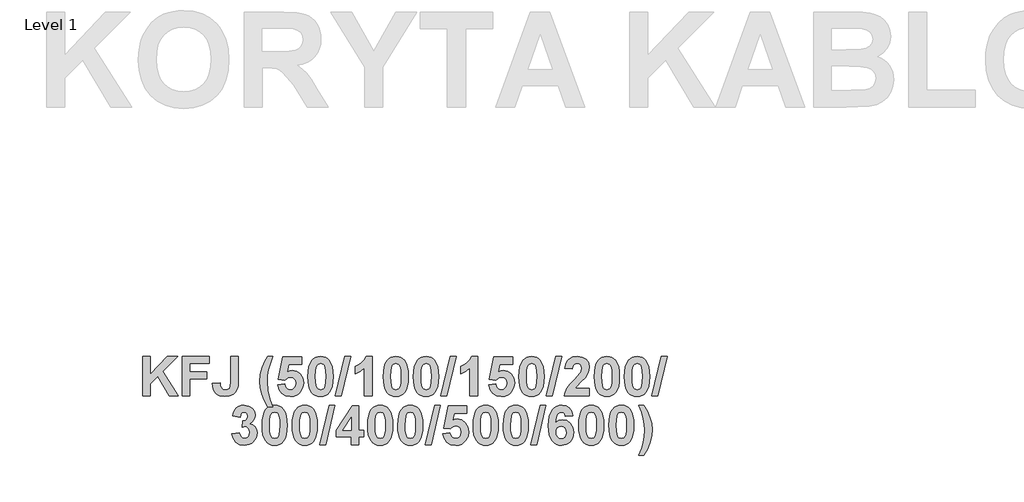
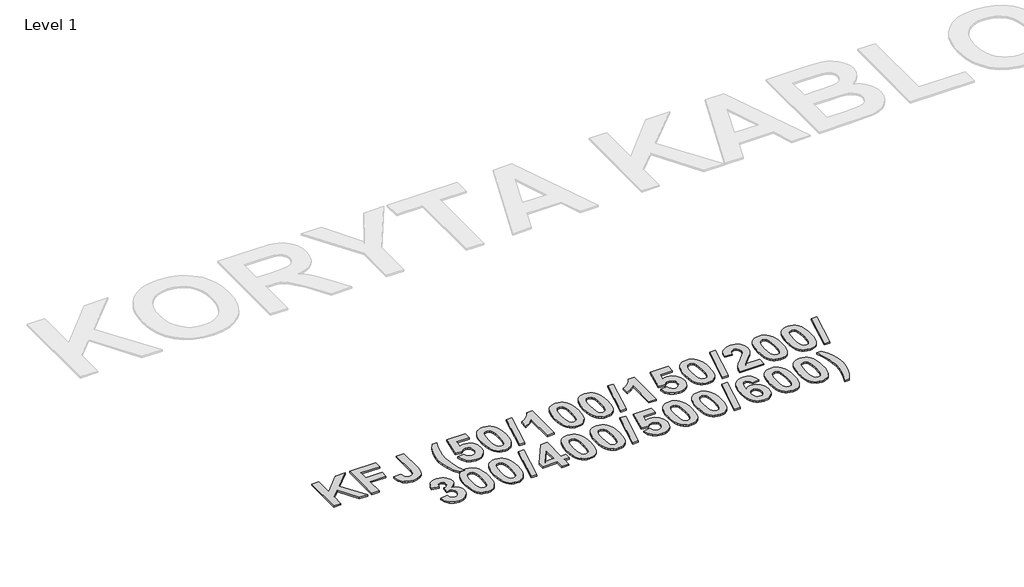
# One storey, part 11 of 42: 1 proxy.
"""IFC4 building model written with IfcOpenShell, lengths in millimetres."""

from ifc_helpers import new_model, si_unit, origin, origin_with_axes, place, context, project, spatial, polyline, outline, extrude, element, save

model = new_model("IFC4")

# Units and contexts
model_context = context("Model", 3, world=origin())
ifc_project = project(units=[si_unit("LENGTHUNIT", "METRE", prefix="MILLI")], contexts=[model_context])

# Site, building, storey
site = spatial("IfcSite", under=ifc_project)
building = spatial("IfcBuilding", under=site)
storey = spatial("IfcBuildingStorey", under=building, Name="Level 1", Elevation=0.0)

# Proxy
placement = place(None, origin())
element("IfcBuildingElementProxy", 1, Name="300mm Arial 2", ObjectType="300mm Arial 2", at=placement, inside=storey, context=model_context, shape_type="SweptSolid", body=[
    extrude(outline(polyline([(-29314.3228423, 4366.2760859), (-29314.3228423, 4621.3409359), (-29265.7390614, 4621.3409359), (-29265.7390614, 4505.0688143), (-29156.299034, 4621.3409359), (-29089.6228554, 4621.3409359), (-29186.157816, 4523.9203335), (-29085.574207, 4366.2760859), (-29142.381805, 4366.2760859), (-29217.7246216, 4491.9739671), (-29265.7390614, 4443.4534463), (-29265.7390614, 4366.2760859), (-29314.3228423, 4366.2760859)])), origin_with_axes(), (0.0, 0.0, 1.0), 10.0),
    extrude(outline(polyline([(-29059.2579923, 4366.2760859), (-29059.2579923, 4621.3409359), (-28885.1661106, 4621.3409359), (-28885.1661106, 4576.8058034), (-29010.6742114, 4576.8058034), (-29010.6742114, 4520.1247256), (-28901.3607042, 4520.1247256), (-28901.3607042, 4475.5895931), (-29010.6742114, 4475.5895931), (-29010.6742114, 4366.2760859), (-29059.2579923, 4366.2760859)])), origin_with_axes(), (0.0, 0.0, 1.0), 10.0),
    extrude(outline(polyline([(-28747.5120646, 4621.3409359), (-28698.9282836, 4621.3409359), (-28698.9282836, 4460.0908609), (-28700.3516366, 4432.0982527), (-28704.6216954, 4411.3805597), (-28715.3126576, 4391.358728), (-28732.2031127, 4375.7018455), (-28755.3879509, 4365.5960395), (-28784.9620624, 4362.2274375), (-28818.932753, 4367.6282712), (-28832.5969413, 4374.3793134), (-28844.0470251, 4383.8307724), (-28853.109039, 4395.8956656), (-28859.6090175, 4410.4870103), (-28864.9228685, 4447.2490542), (-28816.3390876, 4451.2977026), (-28814.1091679, 4432.6675939), (-28809.317213, 4420.4267584), (-28797.8987593, 4410.1786172), (-28781.7357957, 4406.7625701), (-28765.754705, 4409.2139001), (-28755.2614307, 4416.5678904), (-28749.4494061, 4431.6238017), (-28747.5120646, 4457.1808948), (-28747.5120646, 4621.3409359)])), origin_with_axes(), (0.0, 0.0, 1.0), 10.0),
    extrude(outline(polyline([(-28476.2526209, 4297.4490629), (-28508.6418082, 4297.4490629), (-28531.3126578, 4337.1210729), (-28547.8314596, 4378.327141), (-28557.9135431, 4419.6280993), (-28561.2742376, 4459.5847798), (-28557.162329, 4506.9824333), (-28544.8266034, 4551.7547913), (-28528.6320098, 4588.0344767), (-28508.6418082, 4621.3409359), (-28476.2526209, 4621.3409359), (-28493.8152149, 4574.1014328), (-28504.8778304, 4534.4847754), (-28510.7373001, 4497.6041188), (-28512.6904566, 4458.5726177), (-28508.0092069, 4401.92317), (-28495.1674002, 4346.8552256), (-28476.2526209, 4297.4490629)])), origin_with_axes(), (0.0, 0.0, 1.0), 10.0),
    extrude(outline(polyline([(-28443.8634336, 4438.0763351), (-28399.3283011, 4443.2004058), (-28395.1847625, 4428.1286795), (-28386.9293153, 4416.5678904), (-28375.8271622, 4409.2139001), (-28363.1435059, 4406.7625701), (-28348.9495139, 4409.364143), (-28337.1119618, 4417.1688617), (-28329.1174627, 4430.2083563), (-28326.4526297, 4448.5142568), (-28328.9276823, 4465.6735675), (-28336.3528402, 4477.9302179), (-28347.7475714, 4485.2842082), (-28362.1313438, 4487.7355383), (-28380.9512329, 4482.6747278), (-28397.6835377, 4467.4922962), (-28439.8147852, 4473.7550493), (-28411.4742463, 4617.2922875), (-28290.0147939, 4617.2922875), (-28290.0147939, 4568.7085066), (-28372.1897047, 4568.7085066), (-28381.9950251, 4522.3388302), (-28366.5121079, 4529.7877107), (-28350.68126, 4532.2706708), (-28322.5621316, 4526.5219064), (-28299.0609927, 4509.2756131), (-28283.1668847, 4482.8566007), (-28277.8688487, 4449.589679), (-28282.2812429, 4420.6639839), (-28295.5184254, 4394.9961856), (-28308.7358391, 4380.6598583), (-28324.2859701, 4370.4196245), (-28342.1688186, 4364.2754843), (-28362.3843843, 4362.2274375), (-28393.3897562, 4367.3673232), (-28418.0849301, 4382.7869802), (-28435.2995933, 4406.8890903), (-28443.8634336, 4438.0763351)])), origin_with_axes(), (0.0, 0.0, 1.0), 10.0),
    extrude(outline(polyline([(-28168.5553416, 4621.3409359), (-28151.4237072, 4619.6961725), (-28136.2768595, 4614.7618823), (-28123.1147984, 4606.5380652), (-28111.9375239, 4595.0247212), (-28101.2821455, 4576.8967398), (-28093.671161, 4553.6367802), (-28089.1045702, 4525.2448425), (-28087.5823733, 4491.7209266), (-28089.1124777, 4458.2286407), (-28093.702791, 4429.8050729), (-28101.3533132, 4406.4502232), (-28112.0640442, 4388.1640914), (-28123.185966, 4376.8168053), (-28136.3084896, 4368.711601), (-28151.4316147, 4363.8484784), (-28168.5553416, 4362.2274375), (-28185.8629182, 4364.0066287), (-28201.4110723, 4369.3442023), (-28215.1998041, 4378.2401583), (-28227.2291135, 4390.6944967), (-28236.9850119, 4407.7154258), (-28243.9535107, 4430.311154), (-28248.13461, 4458.4816813), (-28249.5283098, 4492.2270076), (-28247.9982054, 4525.5532356), (-28243.4078921, 4553.8581907), (-28235.7573699, 4577.1418728), (-28225.0466389, 4595.404282), (-28213.9247171, 4606.7515681), (-28200.8021936, 4614.8567724), (-28185.6790684, 4619.7198951), (-28168.5553416, 4621.3409359)]), holes=[polyline([(-28168.5553416, 4576.8058034), (-28184.7499352, 4571.4603223), (-28191.0759484, 4563.9877192), (-28195.7571981, 4552.2608724), (-28199.6476962, 4528.1113172), (-28200.9445289, 4491.7209266), (-28199.7900315, 4455.8128945), (-28196.3265393, 4433.2369351), (-28191.0996709, 4419.9839375), (-28184.655045, 4412.044791), (-28168.5553416, 4406.7625701), (-28152.3607479, 4412.1080512), (-28146.0347348, 4419.5806542), (-28141.353485, 4431.3075011), (-28137.462987, 4455.330536), (-28136.1661543, 4491.7209266), (-28137.3206517, 4527.5894211), (-28140.7841439, 4550.173288), (-28146.0110122, 4563.4658232), (-28152.4556381, 4571.4603223), (-28168.5553416, 4576.8058034)])]), origin_with_axes(), (0.0, 0.0, 1.0), 10.0),
    extrude(outline(polyline([(-28072.2734215, 4366.2760859), (-28011.5436953, 4621.3409359), (-27974.2202178, 4621.3409359), (-28034.9499439, 4366.2760859), (-28072.2734215, 4366.2760859)])), origin_with_axes(), (0.0, 0.0, 1.0), 10.0),
    extrude(outline(polyline([(-27836.5661717, 4366.2760859), (-27885.1499527, 4366.2760859), (-27885.1499527, 4548.5917848), (-27913.205821, 4524.7110851), (-27945.8796789, 4507.9787804), (-27945.8796789, 4556.5625613), (-27926.4113734, 4565.6482977), (-27905.3299346, 4580.3800008), (-27886.8737913, 4599.3975778), (-27875.2813722, 4621.3409359), (-27836.5661717, 4621.3409359), (-27836.5661717, 4366.2760859)])), origin_with_axes(), (0.0, 0.0, 1.0), 10.0),
    extrude(outline(polyline([(-27682.7175321, 4621.3409359), (-27665.5858977, 4619.6961725), (-27650.43905, 4614.7618823), (-27637.2769889, 4606.5380652), (-27626.0997144, 4595.0247212), (-27615.444336, 4576.8967398), (-27607.8333515, 4553.6367802), (-27603.2667607, 4525.2448425), (-27601.7445638, 4491.7209266), (-27603.2746682, 4458.2286407), (-27607.8649815, 4429.8050729), (-27615.5155037, 4406.4502232), (-27626.2262347, 4388.1640914), (-27637.3481565, 4376.8168053), (-27650.4706801, 4368.711601), (-27665.5938052, 4363.8484784), (-27682.7175321, 4362.2274375), (-27700.0251086, 4364.0066287), (-27715.5732628, 4369.3442023), (-27729.3619946, 4378.2401583), (-27741.391304, 4390.6944967), (-27751.1472024, 4407.7154258), (-27758.1157012, 4430.311154), (-27762.2968005, 4458.4816813), (-27763.6905003, 4492.2270076), (-27762.1603959, 4525.5532356), (-27757.5700826, 4553.8581907), (-27749.9195604, 4577.1418728), (-27739.2088294, 4595.404282), (-27728.0869076, 4606.7515681), (-27714.9643841, 4614.8567724), (-27699.8412589, 4619.7198951), (-27682.7175321, 4621.3409359)]), holes=[polyline([(-27682.7175321, 4576.8058034), (-27698.9121257, 4571.4603223), (-27705.2381389, 4563.9877192), (-27709.9193886, 4552.2608724), (-27713.8098867, 4528.1113172), (-27715.1067194, 4491.7209266), (-27713.952222, 4455.8128945), (-27710.4887298, 4433.2369351), (-27705.2618614, 4419.9839375), (-27698.8172355, 4412.044791), (-27682.7175321, 4406.7625701), (-27666.5229384, 4412.1080512), (-27660.1969253, 4419.5806542), (-27655.5156755, 4431.3075011), (-27651.6251775, 4455.330536), (-27650.3283448, 4491.7209266), (-27651.4828422, 4527.5894211), (-27654.9463344, 4550.173288), (-27660.1732027, 4563.4658232), (-27666.6178286, 4571.4603223), (-27682.7175321, 4576.8058034)])]), origin_with_axes(), (0.0, 0.0, 1.0), 10.0),
    extrude(outline(polyline([(-27488.3824083, 4621.3409359), (-27471.2507739, 4619.6961725), (-27456.1039262, 4614.7618823), (-27442.9418651, 4606.5380652), (-27431.7645906, 4595.0247212), (-27421.1092122, 4576.8967398), (-27413.4982277, 4553.6367802), (-27408.9316369, 4525.2448425), (-27407.40944, 4491.7209266), (-27408.9395444, 4458.2286407), (-27413.5298577, 4429.8050729), (-27421.1803799, 4406.4502232), (-27431.8911109, 4388.1640914), (-27443.0130327, 4376.8168053), (-27456.1355563, 4368.711601), (-27471.2586814, 4363.8484784), (-27488.3824083, 4362.2274375), (-27505.6899848, 4364.0066287), (-27521.238139, 4369.3442023), (-27535.0268708, 4378.2401583), (-27547.0561802, 4390.6944967), (-27556.8120786, 4407.7154258), (-27563.7805774, 4430.311154), (-27567.9616767, 4458.4816813), (-27569.3553765, 4492.2270076), (-27567.8252721, 4525.5532356), (-27563.2349588, 4553.8581907), (-27555.5844366, 4577.1418728), (-27544.8737056, 4595.404282), (-27533.7517838, 4606.7515681), (-27520.6292603, 4614.8567724), (-27505.5061351, 4619.7198951), (-27488.3824083, 4621.3409359)]), holes=[polyline([(-27488.3824083, 4576.8058034), (-27504.5770019, 4571.4603223), (-27510.9030151, 4563.9877192), (-27515.5842648, 4552.2608724), (-27519.4747629, 4528.1113172), (-27520.7715956, 4491.7209266), (-27519.6170982, 4455.8128945), (-27516.153606, 4433.2369351), (-27510.9267376, 4419.9839375), (-27504.4821117, 4412.044791), (-27488.3824083, 4406.7625701), (-27472.1878146, 4412.1080512), (-27465.8618015, 4419.5806542), (-27461.1805517, 4431.3075011), (-27457.2900537, 4455.330536), (-27455.993221, 4491.7209266), (-27457.1477184, 4527.5894211), (-27460.6112106, 4550.173288), (-27465.8380789, 4563.4658232), (-27472.2827048, 4571.4603223), (-27488.3824083, 4576.8058034)])]), origin_with_axes(), (0.0, 0.0, 1.0), 10.0),
    extrude(outline(polyline([(-27392.1004882, 4366.2760859), (-27331.370762, 4621.3409359), (-27294.0472845, 4621.3409359), (-27354.7770106, 4366.2760859), (-27392.1004882, 4366.2760859)])), origin_with_axes(), (0.0, 0.0, 1.0), 10.0),
    extrude(outline(polyline([(-27156.3932384, 4366.2760859), (-27204.9770194, 4366.2760859), (-27204.9770194, 4548.5917848), (-27233.0328877, 4524.7110851), (-27265.7067456, 4507.9787804), (-27265.7067456, 4556.5625613), (-27246.2384401, 4565.6482977), (-27225.1570013, 4580.3800008), (-27206.700858, 4599.3975778), (-27195.1084389, 4621.3409359), (-27156.3932384, 4621.3409359), (-27156.3932384, 4366.2760859)])), origin_with_axes(), (0.0, 0.0, 1.0), 10.0),
    extrude(outline(polyline([(-27083.517567, 4438.0763351), (-27038.9824345, 4443.2004058), (-27034.8388959, 4428.1286795), (-27026.5834487, 4416.5678904), (-27015.4812956, 4409.2139001), (-27002.7976393, 4406.7625701), (-26988.6036473, 4409.364143), (-26976.7660952, 4417.1688617), (-26968.7715961, 4430.2083563), (-26966.106763, 4448.5142568), (-26968.5818157, 4465.6735675), (-26976.0069736, 4477.9302179), (-26987.4017048, 4485.2842082), (-27001.7854772, 4487.7355383), (-27020.6053663, 4482.6747278), (-27037.3376711, 4467.4922962), (-27079.4689186, 4473.7550493), (-27051.1283797, 4617.2922875), (-26929.6689273, 4617.2922875), (-26929.6689273, 4568.7085066), (-27011.8438381, 4568.7085066), (-27021.6491585, 4522.3388302), (-27006.1662413, 4529.7877107), (-26990.3353934, 4532.2706708), (-26962.216265, 4526.5219064), (-26938.7151261, 4509.2756131), (-26922.8210181, 4482.8566007), (-26917.5229821, 4449.589679), (-26921.9353763, 4420.6639839), (-26935.1725588, 4394.9961856), (-26948.3899725, 4380.6598583), (-26963.9401035, 4370.4196245), (-26981.8229519, 4364.2754843), (-27002.0385177, 4362.2274375), (-27033.0438896, 4367.3673232), (-27057.7390634, 4382.7869802), (-27074.9537267, 4406.8890903), (-27083.517567, 4438.0763351)])), origin_with_axes(), (0.0, 0.0, 1.0), 10.0),
    extrude(outline(polyline([(-26808.209475, 4621.3409359), (-26791.0778406, 4619.6961725), (-26775.9309929, 4614.7618823), (-26762.7689318, 4606.5380652), (-26751.5916573, 4595.0247212), (-26740.9362789, 4576.8967398), (-26733.3252944, 4553.6367802), (-26728.7587036, 4525.2448425), (-26727.2365067, 4491.7209266), (-26728.7666111, 4458.2286407), (-26733.3569244, 4429.8050729), (-26741.0074466, 4406.4502232), (-26751.7181776, 4388.1640914), (-26762.8400994, 4376.8168053), (-26775.9626229, 4368.711601), (-26791.0857481, 4363.8484784), (-26808.209475, 4362.2274375), (-26825.5170515, 4364.0066287), (-26841.0652057, 4369.3442023), (-26854.8539375, 4378.2401583), (-26866.8832469, 4390.6944967), (-26876.6391453, 4407.7154258), (-26883.6076441, 4430.311154), (-26887.7887434, 4458.4816813), (-26889.1824432, 4492.2270076), (-26887.6523388, 4525.5532356), (-26883.0620255, 4553.8581907), (-26875.4115033, 4577.1418728), (-26864.7007723, 4595.404282), (-26853.5788505, 4606.7515681), (-26840.456327, 4614.8567724), (-26825.3332018, 4619.7198951), (-26808.209475, 4621.3409359)]), holes=[polyline([(-26808.209475, 4576.8058034), (-26824.4040686, 4571.4603223), (-26830.7300817, 4563.9877192), (-26835.4113315, 4552.2608724), (-26839.3018296, 4528.1113172), (-26840.5986623, 4491.7209266), (-26839.4441649, 4455.8128945), (-26835.9806727, 4433.2369351), (-26830.7538043, 4419.9839375), (-26824.3091784, 4412.044791), (-26808.209475, 4406.7625701), (-26792.0148813, 4412.1080512), (-26785.6888682, 4419.5806542), (-26781.0076184, 4431.3075011), (-26777.1171203, 4455.330536), (-26775.8202877, 4491.7209266), (-26776.9747851, 4527.5894211), (-26780.4382772, 4550.173288), (-26785.6651456, 4563.4658232), (-26792.1097715, 4571.4603223), (-26808.209475, 4576.8058034)])]), origin_with_axes(), (0.0, 0.0, 1.0), 10.0),
    extrude(outline(polyline([(-26711.9275549, 4366.2760859), (-26651.1978287, 4621.3409359), (-26613.8743512, 4621.3409359), (-26674.6040773, 4366.2760859), (-26711.9275549, 4366.2760859)])), origin_with_axes(), (0.0, 0.0, 1.0), 10.0),
    extrude(outline(polyline([(-26435.733821, 4414.8598669), (-26435.733821, 4366.2760859), (-26597.6797575, 4366.2760859), (-26592.5082418, 4390.7814793), (-26582.1810253, 4413.942595), (-26562.9973904, 4440.1243819), (-26531.2566195, 4473.6917891), (-26493.6801014, 4514.4313138), (-26486.6582268, 4529.1392943), (-26484.317602, 4543.6574945), (-26486.2865735, 4557.8040414), (-26492.1934883, 4568.2340556), (-26501.5638953, 4574.6628664), (-26513.9233435, 4576.8058034), (-26526.195809, 4574.6944965), (-26535.6848287, 4568.3605758), (-26542.074102, 4557.13981), (-26545.0473281, 4540.3679677), (-26593.6311091, 4544.7961769), (-26585.0277312, 4579.9450874), (-26577.4048854, 4593.1842468), (-26567.5679349, 4603.5332089), (-26542.9439288, 4616.8890042), (-26512.8479212, 4621.3409359), (-26480.7117745, 4616.3512931), (-26456.2933637, 4601.3823644), (-26440.8737067, 4578.9961854), (-26435.733821, 4551.7547913), (-26441.3639727, 4519.6186446), (-26459.2033298, 4487.6722782), (-26489.4100425, 4455.7891719), (-26517.1496102, 4428.1444945), (-26526.2590691, 4414.8598669), (-26435.733821, 4414.8598669)])), origin_with_axes(), (0.0, 0.0, 1.0), 10.0),
    extrude(outline(polyline([(-26322.3716655, 4621.3409359), (-26305.2400311, 4619.6961725), (-26290.0931834, 4614.7618823), (-26276.9311223, 4606.5380652), (-26265.7538478, 4595.0247212), (-26255.0984694, 4576.8967398), (-26247.4874849, 4553.6367802), (-26242.9208941, 4525.2448425), (-26241.3986972, 4491.7209266), (-26242.9288016, 4458.2286407), (-26247.5191149, 4429.8050729), (-26255.1696371, 4406.4502232), (-26265.8803681, 4388.1640914), (-26277.0022899, 4376.8168053), (-26290.1248134, 4368.711601), (-26305.2479386, 4363.8484784), (-26322.3716655, 4362.2274375), (-26339.679242, 4364.0066287), (-26355.2273962, 4369.3442023), (-26369.016128, 4378.2401583), (-26381.0454374, 4390.6944967), (-26390.8013358, 4407.7154258), (-26397.7698346, 4430.311154), (-26401.9509339, 4458.4816813), (-26403.3446337, 4492.2270076), (-26401.8145293, 4525.5532356), (-26397.224216, 4553.8581907), (-26389.5736938, 4577.1418728), (-26378.8629628, 4595.404282), (-26367.741041, 4606.7515681), (-26354.6185175, 4614.8567724), (-26339.4953923, 4619.7198951), (-26322.3716655, 4621.3409359)]), holes=[polyline([(-26322.3716655, 4576.8058034), (-26338.5662591, 4571.4603223), (-26344.8922722, 4563.9877192), (-26349.573522, 4552.2608724), (-26353.4640201, 4528.1113172), (-26354.7608528, 4491.7209266), (-26353.6063554, 4455.8128945), (-26350.1428632, 4433.2369351), (-26344.9159948, 4419.9839375), (-26338.4713689, 4412.044791), (-26322.3716655, 4406.7625701), (-26306.1770718, 4412.1080512), (-26299.8510587, 4419.5806542), (-26295.1698089, 4431.3075011), (-26291.2793108, 4455.330536), (-26289.9824782, 4491.7209266), (-26291.1369755, 4527.5894211), (-26294.6004677, 4550.173288), (-26299.8273361, 4563.4658232), (-26306.271962, 4571.4603223), (-26322.3716655, 4576.8058034)])]), origin_with_axes(), (0.0, 0.0, 1.0), 10.0),
    extrude(outline(polyline([(-26128.0365416, 4621.3409359), (-26110.9049073, 4619.6961725), (-26095.7580596, 4614.7618823), (-26082.5959985, 4606.5380652), (-26071.418724, 4595.0247212), (-26060.7633456, 4576.8967398), (-26053.1523611, 4553.6367802), (-26048.5857703, 4525.2448425), (-26047.0635734, 4491.7209266), (-26048.5936778, 4458.2286407), (-26053.1839911, 4429.8050729), (-26060.8345133, 4406.4502232), (-26071.5452443, 4388.1640914), (-26082.6671661, 4376.8168053), (-26095.7896896, 4368.711601), (-26110.9128148, 4363.8484784), (-26128.0365416, 4362.2274375), (-26145.3441182, 4364.0066287), (-26160.8922724, 4369.3442023), (-26174.6810042, 4378.2401583), (-26186.7103136, 4390.6944967), (-26196.466212, 4407.7154258), (-26203.4347108, 4430.311154), (-26207.6158101, 4458.4816813), (-26209.0095099, 4492.2270076), (-26207.4794055, 4525.5532356), (-26202.8890922, 4553.8581907), (-26195.23857, 4577.1418728), (-26184.527839, 4595.404282), (-26173.4059172, 4606.7515681), (-26160.2833937, 4614.8567724), (-26145.1602685, 4619.7198951), (-26128.0365416, 4621.3409359)]), holes=[polyline([(-26128.0365416, 4576.8058034), (-26144.2311353, 4571.4603223), (-26150.5571484, 4563.9877192), (-26155.2383982, 4552.2608724), (-26159.1288963, 4528.1113172), (-26160.4257289, 4491.7209266), (-26159.2712316, 4455.8128945), (-26155.8077394, 4433.2369351), (-26150.580871, 4419.9839375), (-26144.1362451, 4412.044791), (-26128.0365416, 4406.7625701), (-26111.841948, 4412.1080512), (-26105.5159349, 4419.5806542), (-26100.8346851, 4431.3075011), (-26096.944187, 4455.330536), (-26095.6473543, 4491.7209266), (-26096.8018517, 4527.5894211), (-26100.2653439, 4550.173288), (-26105.4922123, 4563.4658232), (-26111.9368382, 4571.4603223), (-26128.0365416, 4576.8058034)])]), origin_with_axes(), (0.0, 0.0, 1.0), 10.0),
    extrude(outline(polyline([(-26031.7546216, 4366.2760859), (-25971.0248954, 4621.3409359), (-25933.7014178, 4621.3409359), (-25994.431144, 4366.2760859), (-26031.7546216, 4366.2760859)])), origin_with_axes(), (0.0, 0.0, 1.0), 10.0),
    extrude(outline(polyline([(-28739.4147677, 4122.7918795), (-28690.8309868, 4128.4220312), (-28687.082824, 4112.7967787), (-28679.886984, 4101.3466949), (-28670.0342186, 4094.3248203), (-28658.3152792, 4091.9841955), (-28645.7423281, 4094.6648435), (-28635.3518515, 4102.7067877), (-28628.377422, 4115.2876464), (-28626.0526122, 4131.5850377), (-28628.1797341, 4147.0046948), (-28634.5610999, 4158.8501544), (-28644.010582, 4166.3939251), (-28655.342053, 4168.9085153), (-28674.6363931, 4165.3026878), (-28670.3979643, 4205.346351), (-28656.5677181, 4207.0860046), (-28646.4540046, 4213.3171276), (-28640.2624192, 4223.1857081), (-28638.1985574, 4235.8377344), (-28639.7405231, 4246.5840492), (-28644.3664202, 4254.910664), (-28651.5543527, 4260.2482376), (-28660.7824243, 4262.0274288), (-28670.1686463, 4259.963567), (-28678.0840703, 4253.7719816), (-28683.8486498, 4243.610823), (-28686.7823384, 4229.6382415), (-28735.3661193, 4236.9131566), (-28729.8071353, 4258.6509193), (-28721.9866015, 4275.5334668), (-28711.2640092, 4288.4464412), (-28696.9988496, 4298.2754841), (-28680.0055968, 4304.490792), (-28661.098725, 4306.5625613), (-28630.4491913, 4300.8217044), (-28617.6627372, 4293.6456332), (-28606.5684917, 4283.5991336), (-28593.8532053, 4263.577302), (-28589.6147765, 4241.0883253), (-28591.8881874, 4225.1428184), (-28598.7084204, 4210.8974275), (-28610.0754752, 4198.3521527), (-28625.989352, 4187.5069939), (-28606.1256708, 4179.9553157), (-28590.6901987, 4166.6627806), (-28580.7741731, 4148.799701), (-28577.4688312, 4127.5363893), (-28583.3283009, 4096.7682429), (-28600.9067099, 4070.8869416), (-28613.3432564, 4060.6328697), (-28627.2150171, 4053.3085326), (-28659.2641812, 4047.4490629), (-28689.5262466, 4052.6601162), (-28714.1423452, 4068.2932762), (-28731.3570085, 4092.3400337), (-28739.4147677, 4122.7918795)])), origin_with_axes(), (0.0, 0.0, 1.0), 10.0),
    extrude(outline(polyline([(-28464.1066757, 4306.5625613), (-28446.9750413, 4304.9177979), (-28431.8281936, 4299.9835076), (-28418.6661325, 4291.7596906), (-28407.488858, 4280.2463466), (-28396.8334796, 4262.1183652), (-28389.2224951, 4238.8584056), (-28384.6559043, 4210.4664679), (-28383.1337074, 4176.942552), (-28384.6638119, 4143.4502661), (-28389.2541251, 4115.0266983), (-28396.9046473, 4091.6718486), (-28407.6153783, 4073.3857168), (-28418.7373002, 4062.0384307), (-28431.8598237, 4053.9332264), (-28446.9829488, 4049.0701038), (-28464.1066757, 4047.4490629), (-28481.4142523, 4049.2282541), (-28496.9624064, 4054.5658277), (-28510.7511382, 4063.4617837), (-28522.7804476, 4075.9161221), (-28532.536346, 4092.9370512), (-28539.5048448, 4115.5327794), (-28543.6859442, 4143.7033067), (-28545.0796439, 4177.448633), (-28543.5495395, 4210.774861), (-28538.9592262, 4239.0798161), (-28531.3087041, 4262.3634982), (-28520.5979731, 4280.6259074), (-28509.4760512, 4291.9731935), (-28496.3535277, 4300.0783978), (-28481.2304025, 4304.9415205), (-28464.1066757, 4306.5625613)]), holes=[polyline([(-28464.1066757, 4262.0274288), (-28480.3012693, 4256.6819477), (-28486.6272825, 4249.2093446), (-28491.3085322, 4237.4824978), (-28495.1990303, 4213.3329426), (-28496.495863, 4176.942552), (-28495.3413656, 4141.0345199), (-28491.8778734, 4118.4585605), (-28486.651005, 4105.2055629), (-28480.2063791, 4097.2664164), (-28464.1066757, 4091.9841955), (-28447.912082, 4097.3296766), (-28441.5860689, 4104.8022796), (-28436.9048192, 4116.5291265), (-28433.0143211, 4140.5521614), (-28431.7174884, 4176.942552), (-28432.8719858, 4212.8110465), (-28436.335478, 4235.3949134), (-28441.5623463, 4248.6874486), (-28448.0069722, 4256.6819477), (-28464.1066757, 4262.0274288)])]), origin_with_axes(), (0.0, 0.0, 1.0), 10.0),
    extrude(outline(polyline([(-28269.7715519, 4306.5625613), (-28252.6399175, 4304.9177979), (-28237.4930698, 4299.9835076), (-28224.3310087, 4291.7596906), (-28213.1537342, 4280.2463466), (-28202.4983558, 4262.1183652), (-28194.8873713, 4238.8584056), (-28190.3207805, 4210.4664679), (-28188.7985836, 4176.942552), (-28190.3286881, 4143.4502661), (-28194.9190013, 4115.0266983), (-28202.5695235, 4091.6718486), (-28213.2802545, 4073.3857168), (-28224.4021764, 4062.0384307), (-28237.5246999, 4053.9332264), (-28252.647825, 4049.0701038), (-28269.7715519, 4047.4490629), (-28287.0791285, 4049.2282541), (-28302.6272826, 4054.5658277), (-28316.4160144, 4063.4617837), (-28328.4453238, 4075.9161221), (-28338.2012222, 4092.9370512), (-28345.169721, 4115.5327794), (-28349.3508204, 4143.7033067), (-28350.7445201, 4177.448633), (-28349.2144157, 4210.774861), (-28344.6241024, 4239.0798161), (-28336.9735803, 4262.3634982), (-28326.2628493, 4280.6259074), (-28315.1409274, 4291.9731935), (-28302.0184039, 4300.0783978), (-28286.8952787, 4304.9415205), (-28269.7715519, 4306.5625613)]), holes=[polyline([(-28269.7715519, 4262.0274288), (-28285.9661455, 4256.6819477), (-28292.2921587, 4249.2093446), (-28296.9734084, 4237.4824978), (-28300.8639065, 4213.3329426), (-28302.1607392, 4176.942552), (-28301.0062418, 4141.0345199), (-28297.5427496, 4118.4585605), (-28292.3158812, 4105.2055629), (-28285.8712553, 4097.2664164), (-28269.7715519, 4091.9841955), (-28253.5769582, 4097.3296766), (-28247.2509451, 4104.8022796), (-28242.5696954, 4116.5291265), (-28238.6791973, 4140.5521614), (-28237.3823646, 4176.942552), (-28238.536862, 4212.8110465), (-28242.0003542, 4235.3949134), (-28247.2272225, 4248.6874486), (-28253.6718484, 4256.6819477), (-28269.7715519, 4262.0274288)])]), origin_with_axes(), (0.0, 0.0, 1.0), 10.0),
    extrude(outline(polyline([(-28173.4896318, 4051.4977113), (-28112.7599056, 4306.5625613), (-28075.4364281, 4306.5625613), (-28136.1661543, 4051.4977113), (-28173.4896318, 4051.4977113)])), origin_with_axes(), (0.0, 0.0, 1.0), 10.0),
    extrude(outline(polyline([(-27970.1715693, 4051.4977113), (-27970.1715693, 4104.1301407), (-28067.3391313, 4104.1301407), (-28067.3391313, 4144.4268444), (-27963.7190359, 4302.5139129), (-27921.5877884, 4302.5139129), (-27921.5877884, 4144.6166248), (-27889.1986011, 4144.6166248), (-27889.1986011, 4104.1301407), (-27921.5877884, 4104.1301407), (-27921.5877884, 4051.4977113), (-27970.1715693, 4051.4977113)]), holes=[polyline([(-27970.1715693, 4144.6166248), (-27970.1715693, 4227.487397), (-28024.4487621, 4144.6166248), (-27970.1715693, 4144.6166248)])]), origin_with_axes(), (0.0, 0.0, 1.0), 10.0),
    extrude(outline(polyline([(-27783.9337424, 4306.5625613), (-27766.802108, 4304.9177979), (-27751.6552603, 4299.9835076), (-27738.4931992, 4291.7596906), (-27727.3159247, 4280.2463466), (-27716.6605463, 4262.1183652), (-27709.0495618, 4238.8584056), (-27704.482971, 4210.4664679), (-27702.9607741, 4176.942552), (-27704.4908786, 4143.4502661), (-27709.0811918, 4115.0266983), (-27716.731714, 4091.6718486), (-27727.442445, 4073.3857168), (-27738.5643669, 4062.0384307), (-27751.6868904, 4053.9332264), (-27766.8100155, 4049.0701038), (-27783.9337424, 4047.4490629), (-27801.241319, 4049.2282541), (-27816.7894731, 4054.5658277), (-27830.5782049, 4063.4617837), (-27842.6075143, 4075.9161221), (-27852.3634127, 4092.9370512), (-27859.3319115, 4115.5327794), (-27863.5130109, 4143.7033067), (-27864.9067106, 4177.448633), (-27863.3766062, 4210.774861), (-27858.7862929, 4239.0798161), (-27851.1357708, 4262.3634982), (-27840.4250398, 4280.6259074), (-27829.3031179, 4291.9731935), (-27816.1805944, 4300.0783978), (-27801.0574692, 4304.9415205), (-27783.9337424, 4306.5625613)]), holes=[polyline([(-27783.9337424, 4262.0274288), (-27800.128336, 4256.6819477), (-27806.4543492, 4249.2093446), (-27811.1355989, 4237.4824978), (-27815.026097, 4213.3329426), (-27816.3229297, 4176.942552), (-27815.1684323, 4141.0345199), (-27811.7049401, 4118.4585605), (-27806.4780717, 4105.2055629), (-27800.0334458, 4097.2664164), (-27783.9337424, 4091.9841955), (-27767.7391487, 4097.3296766), (-27761.4131356, 4104.8022796), (-27756.7318859, 4116.5291265), (-27752.8413878, 4140.5521614), (-27751.5445551, 4176.942552), (-27752.6990525, 4212.8110465), (-27756.1625447, 4235.3949134), (-27761.389413, 4248.6874486), (-27767.8340389, 4256.6819477), (-27783.9337424, 4262.0274288)])]), origin_with_axes(), (0.0, 0.0, 1.0), 10.0),
    extrude(outline(polyline([(-27589.5986186, 4306.5625613), (-27572.4669842, 4304.9177979), (-27557.3201365, 4299.9835076), (-27544.1580754, 4291.7596906), (-27532.9808009, 4280.2463466), (-27522.3254225, 4262.1183652), (-27514.714438, 4238.8584056), (-27510.1478472, 4210.4664679), (-27508.6256503, 4176.942552), (-27510.1557548, 4143.4502661), (-27514.746068, 4115.0266983), (-27522.3965902, 4091.6718486), (-27533.1073212, 4073.3857168), (-27544.2292431, 4062.0384307), (-27557.3517666, 4053.9332264), (-27572.4748917, 4049.0701038), (-27589.5986186, 4047.4490629), (-27606.9061952, 4049.2282541), (-27622.4543493, 4054.5658277), (-27636.2430811, 4063.4617837), (-27648.2723905, 4075.9161221), (-27658.0282889, 4092.9370512), (-27664.9967877, 4115.5327794), (-27669.1778871, 4143.7033067), (-27670.5715868, 4177.448633), (-27669.0414824, 4210.774861), (-27664.4511691, 4239.0798161), (-27656.800647, 4262.3634982), (-27646.089916, 4280.6259074), (-27634.9679941, 4291.9731935), (-27621.8454706, 4300.0783978), (-27606.7223454, 4304.9415205), (-27589.5986186, 4306.5625613)]), holes=[polyline([(-27589.5986186, 4262.0274288), (-27605.7932122, 4256.6819477), (-27612.1192254, 4249.2093446), (-27616.8004751, 4237.4824978), (-27620.6909732, 4213.3329426), (-27621.9878059, 4176.942552), (-27620.8333085, 4141.0345199), (-27617.3698163, 4118.4585605), (-27612.1429479, 4105.2055629), (-27605.698322, 4097.2664164), (-27589.5986186, 4091.9841955), (-27573.4040249, 4097.3296766), (-27567.0780118, 4104.8022796), (-27562.3967621, 4116.5291265), (-27558.506264, 4140.5521614), (-27557.2094313, 4176.942552), (-27558.3639287, 4212.8110465), (-27561.8274209, 4235.3949134), (-27567.0542892, 4248.6874486), (-27573.4989151, 4256.6819477), (-27589.5986186, 4262.0274288)])]), origin_with_axes(), (0.0, 0.0, 1.0), 10.0),
    extrude(outline(polyline([(-27493.3166985, 4051.4977113), (-27432.5869723, 4306.5625613), (-27395.2634948, 4306.5625613), (-27455.993221, 4051.4977113), (-27493.3166985, 4051.4977113)])), origin_with_axes(), (0.0, 0.0, 1.0), 10.0),
    extrude(outline(polyline([(-27379.0689011, 4123.2979605), (-27334.5337686, 4128.4220312), (-27330.39023, 4113.3503049), (-27322.1347828, 4101.7895158), (-27311.0326298, 4094.4355255), (-27298.3489734, 4091.9841955), (-27284.1549814, 4094.5857684), (-27272.3174293, 4102.3904871), (-27264.3229302, 4115.4299817), (-27261.6580972, 4133.7358822), (-27264.1331498, 4150.8951929), (-27271.5583077, 4163.1518433), (-27282.9530389, 4170.5058336), (-27297.3368113, 4172.9571637), (-27316.1567004, 4167.8963532), (-27332.8890052, 4152.7139216), (-27375.0202527, 4158.9766747), (-27346.6797138, 4302.5139129), (-27225.2202614, 4302.5139129), (-27225.2202614, 4253.930132), (-27307.3951722, 4253.930132), (-27317.2004926, 4207.5604556), (-27301.7175754, 4215.0093361), (-27285.8867275, 4217.4922962), (-27257.7675991, 4211.7435318), (-27234.2664602, 4194.4972385), (-27218.3723522, 4168.0782261), (-27213.0743162, 4134.8113044), (-27217.4867104, 4105.8856093), (-27230.7238929, 4080.217811), (-27243.9413066, 4065.8814837), (-27259.4914377, 4055.6412499), (-27277.3742861, 4049.4971097), (-27297.5898518, 4047.4490629), (-27328.5952237, 4052.5889486), (-27353.2903976, 4068.0086056), (-27370.5050608, 4092.1107157), (-27379.0689011, 4123.2979605)])), origin_with_axes(), (0.0, 0.0, 1.0), 10.0),
    extrude(outline(polyline([(-27103.7608091, 4306.5625613), (-27086.6291747, 4304.9177979), (-27071.482327, 4299.9835076), (-27058.3202659, 4291.7596906), (-27047.1429914, 4280.2463466), (-27036.487613, 4262.1183652), (-27028.8766285, 4238.8584056), (-27024.3100377, 4210.4664679), (-27022.7878408, 4176.942552), (-27024.3179452, 4143.4502661), (-27028.9082585, 4115.0266983), (-27036.5587807, 4091.6718486), (-27047.2695117, 4073.3857168), (-27058.3914335, 4062.0384307), (-27071.5139571, 4053.9332264), (-27086.6370822, 4049.0701038), (-27103.7608091, 4047.4490629), (-27121.0683857, 4049.2282541), (-27136.6165398, 4054.5658277), (-27150.4052716, 4063.4617837), (-27162.434581, 4075.9161221), (-27172.1904794, 4092.9370512), (-27179.1589782, 4115.5327794), (-27183.3400775, 4143.7033067), (-27184.7337773, 4177.448633), (-27183.2036729, 4210.774861), (-27178.6133596, 4239.0798161), (-27170.9628375, 4262.3634982), (-27160.2521064, 4280.6259074), (-27149.1301846, 4291.9731935), (-27136.0076611, 4300.0783978), (-27120.8845359, 4304.9415205), (-27103.7608091, 4306.5625613)]), holes=[polyline([(-27103.7608091, 4262.0274288), (-27119.9554027, 4256.6819477), (-27126.2814159, 4249.2093446), (-27130.9626656, 4237.4824978), (-27134.8531637, 4213.3329426), (-27136.1499964, 4176.942552), (-27134.995499, 4141.0345199), (-27131.5320068, 4118.4585605), (-27126.3051384, 4105.2055629), (-27119.8605125, 4097.2664164), (-27103.7608091, 4091.9841955), (-27087.5662154, 4097.3296766), (-27081.2402023, 4104.8022796), (-27076.5589525, 4116.5291265), (-27072.6684545, 4140.5521614), (-27071.3716218, 4176.942552), (-27072.5261192, 4212.8110465), (-27075.9896114, 4235.3949134), (-27081.2164797, 4248.6874486), (-27087.6611056, 4256.6819477), (-27103.7608091, 4262.0274288)])]), origin_with_axes(), (0.0, 0.0, 1.0), 10.0),
    extrude(outline(polyline([(-26909.4256853, 4306.5625613), (-26892.2940509, 4304.9177979), (-26877.1472032, 4299.9835076), (-26863.9851421, 4291.7596906), (-26852.8078676, 4280.2463466), (-26842.1524892, 4262.1183652), (-26834.5415047, 4238.8584056), (-26829.9749139, 4210.4664679), (-26828.452717, 4176.942552), (-26829.9828214, 4143.4502661), (-26834.5731347, 4115.0266983), (-26842.2236569, 4091.6718486), (-26852.9343879, 4073.3857168), (-26864.0563097, 4062.0384307), (-26877.1788333, 4053.9332264), (-26892.3019584, 4049.0701038), (-26909.4256853, 4047.4490629), (-26926.7332619, 4049.2282541), (-26942.281416, 4054.5658277), (-26956.0701478, 4063.4617837), (-26968.0994572, 4075.9161221), (-26977.8553556, 4092.9370512), (-26984.8238544, 4115.5327794), (-26989.0049537, 4143.7033067), (-26990.3986535, 4177.448633), (-26988.8685491, 4210.774861), (-26984.2782358, 4239.0798161), (-26976.6277137, 4262.3634982), (-26965.9169826, 4280.6259074), (-26954.7950608, 4291.9731935), (-26941.6725373, 4300.0783978), (-26926.5494121, 4304.9415205), (-26909.4256853, 4306.5625613)]), holes=[polyline([(-26909.4256853, 4262.0274288), (-26925.6202789, 4256.6819477), (-26931.9462921, 4249.2093446), (-26936.6275418, 4237.4824978), (-26940.5180399, 4213.3329426), (-26941.8148726, 4176.942552), (-26940.6603752, 4141.0345199), (-26937.196883, 4118.4585605), (-26931.9700146, 4105.2055629), (-26925.5253887, 4097.2664164), (-26909.4256853, 4091.9841955), (-26893.2310916, 4097.3296766), (-26886.9050785, 4104.8022796), (-26882.2238287, 4116.5291265), (-26878.3333307, 4140.5521614), (-26877.036498, 4176.942552), (-26878.1909954, 4212.8110465), (-26881.6544876, 4235.3949134), (-26886.8813559, 4248.6874486), (-26893.3259818, 4256.6819477), (-26909.4256853, 4262.0274288)])]), origin_with_axes(), (0.0, 0.0, 1.0), 10.0),
    extrude(outline(polyline([(-26813.1437652, 4051.4977113), (-26752.414039, 4306.5625613), (-26715.0905615, 4306.5625613), (-26775.8202877, 4051.4977113), (-26813.1437652, 4051.4977113)])), origin_with_axes(), (0.0, 0.0, 1.0), 10.0),
    extrude(outline(polyline([(-26540.9986797, 4238.8742207), (-26589.5824607, 4233.6868899), (-26592.5556869, 4246.2835636), (-26598.1858386, 4255.1004444), (-26606.1882452, 4260.2956827), (-26616.2782361, 4262.0274288), (-26629.8791644, 4258.6667343), (-26641.2027279, 4248.5846508), (-26649.5056202, 4227.7483451), (-26654.0445346, 4192.1249835), (-26634.022703, 4208.1139818), (-26609.6359223, 4213.4436478), (-26581.809372, 4207.750236), (-26558.3003257, 4190.6700005), (-26542.2876049, 4164.5910113), (-26536.9500313, 4131.9013384), (-26542.4062177, 4097.4641043), (-26549.2264506, 4083.0744013), (-26558.7747767, 4070.570641), (-26570.4660397, 4060.4549506), (-26583.7150835, 4053.2294574), (-26614.8865133, 4047.4490629), (-26632.4174772, 4049.3152368), (-26648.3194927, 4054.9137584), (-26662.5925599, 4064.2446278), (-26675.2366787, 4077.307845), (-26685.5876177, 4094.6213522), (-26692.9811455, 4116.7030918), (-26697.4172622, 4143.5530639), (-26698.8959678, 4175.1712683), (-26697.3520252, 4207.6237157), (-26692.7201975, 4235.205133), (-26685.0004846, 4257.9155202), (-26674.1928865, 4275.7548773), (-26660.9181433, 4289.2332391), (-26645.796995, 4298.8606403), (-26628.8294416, 4304.6370811), (-26610.0154831, 4306.5625613), (-26584.6956155, 4302.2292423), (-26564.1518878, 4289.2292853), (-26549.2857569, 4267.9738811), (-26540.9986797, 4238.8742207)]), holes=[polyline([(-26650.3121869, 4132.9767606), (-26647.6868914, 4115.5565019), (-26639.811005, 4102.6435276), (-26628.5665167, 4094.6490285), (-26615.8354152, 4091.9841955), (-26603.9425105, 4094.16667), (-26594.2004503, 4100.7140936), (-26587.7004718, 4112.2432526), (-26585.5338123, 4129.3709331), (-26587.8665296, 4147.1233075), (-26594.8646817, 4159.3878655), (-26605.357956, 4166.5283528), (-26618.1760401, 4168.9085153), (-26630.6145634, 4166.6311506), (-26640.9813175, 4159.7990564), (-26647.9794695, 4148.538753), (-26650.3121869, 4132.9767606)])]), origin_with_axes(), (0.0, 0.0, 1.0), 10.0),
    extrude(outline(polyline([(-26423.5878758, 4306.5625613), (-26406.4562414, 4304.9177979), (-26391.3093937, 4299.9835076), (-26378.1473326, 4291.7596906), (-26366.9700581, 4280.2463466), (-26356.3146797, 4262.1183652), (-26348.7036952, 4238.8584056), (-26344.1371044, 4210.4664679), (-26342.6149075, 4176.942552), (-26344.1450119, 4143.4502661), (-26348.7353252, 4115.0266983), (-26356.3858474, 4091.6718486), (-26367.0965784, 4073.3857168), (-26378.2185002, 4062.0384307), (-26391.3410238, 4053.9332264), (-26406.4641489, 4049.0701038), (-26423.5878758, 4047.4490629), (-26440.8954524, 4049.2282541), (-26456.4436065, 4054.5658277), (-26470.2323383, 4063.4617837), (-26482.2616477, 4075.9161221), (-26492.0175461, 4092.9370512), (-26498.9860449, 4115.5327794), (-26503.1671442, 4143.7033067), (-26504.560844, 4177.448633), (-26503.0307396, 4210.774861), (-26498.4404263, 4239.0798161), (-26490.7899042, 4262.3634982), (-26480.0791731, 4280.6259074), (-26468.9572513, 4291.9731935), (-26455.8347278, 4300.0783978), (-26440.7116026, 4304.9415205), (-26423.5878758, 4306.5625613)]), holes=[polyline([(-26423.5878758, 4262.0274288), (-26439.7824694, 4256.6819477), (-26446.1084826, 4249.2093446), (-26450.7897323, 4237.4824978), (-26454.6802304, 4213.3329426), (-26455.9770631, 4176.942552), (-26454.8225657, 4141.0345199), (-26451.3590735, 4118.4585605), (-26446.1322051, 4105.2055629), (-26439.6875792, 4097.2664164), (-26423.5878758, 4091.9841955), (-26407.3932821, 4097.3296766), (-26401.067269, 4104.8022796), (-26396.3860192, 4116.5291265), (-26392.4955212, 4140.5521614), (-26391.1986885, 4176.942552), (-26392.3531859, 4212.8110465), (-26395.8166781, 4235.3949134), (-26401.0435464, 4248.6874486), (-26407.4881723, 4256.6819477), (-26423.5878758, 4262.0274288)])]), origin_with_axes(), (0.0, 0.0, 1.0), 10.0),
    extrude(outline(polyline([(-26229.252752, 4306.5625613), (-26212.1211176, 4304.9177979), (-26196.9742699, 4299.9835076), (-26183.8122088, 4291.7596906), (-26172.6349343, 4280.2463466), (-26161.9795559, 4262.1183652), (-26154.3685714, 4238.8584056), (-26149.8019806, 4210.4664679), (-26148.2797837, 4176.942552), (-26149.8098881, 4143.4502661), (-26154.4002014, 4115.0266983), (-26162.0507236, 4091.6718486), (-26172.7614546, 4073.3857168), (-26183.8833764, 4062.0384307), (-26197.0059, 4053.9332264), (-26212.1290251, 4049.0701038), (-26229.252752, 4047.4490629), (-26246.5603286, 4049.2282541), (-26262.1084827, 4054.5658277), (-26275.8972145, 4063.4617837), (-26287.9265239, 4075.9161221), (-26297.6824223, 4092.9370512), (-26304.6509211, 4115.5327794), (-26308.8320204, 4143.7033067), (-26310.2257202, 4177.448633), (-26308.6956158, 4210.774861), (-26304.1053025, 4239.0798161), (-26296.4547803, 4262.3634982), (-26285.7440493, 4280.6259074), (-26274.6221275, 4291.9731935), (-26261.499604, 4300.0783978), (-26246.3764788, 4304.9415205), (-26229.252752, 4306.5625613)]), holes=[polyline([(-26229.252752, 4262.0274288), (-26245.4473456, 4256.6819477), (-26251.7733588, 4249.2093446), (-26256.4546085, 4237.4824978), (-26260.3451066, 4213.3329426), (-26261.6419393, 4176.942552), (-26260.4874419, 4141.0345199), (-26257.0239497, 4118.4585605), (-26251.7970813, 4105.2055629), (-26245.3524554, 4097.2664164), (-26229.252752, 4091.9841955), (-26213.0581583, 4097.3296766), (-26206.7321452, 4104.8022796), (-26202.0508954, 4116.5291265), (-26198.1603974, 4140.5521614), (-26196.8635647, 4176.942552), (-26198.0180621, 4212.8110465), (-26201.4815543, 4235.3949134), (-26206.7084226, 4248.6874486), (-26213.1530485, 4256.6819477), (-26229.252752, 4262.0274288)])]), origin_with_axes(), (0.0, 0.0, 1.0), 10.0),
    extrude(outline(polyline([(-26115.8905964, 3982.6706883), (-26097.893089, 4028.6608039), (-26088.2142889, 4065.5730906), (-26081.6036052, 4105.2688231), (-26079.4527607, 4143.7942431), (-26081.3980097, 4182.8257442), (-26087.2337569, 4219.7064008), (-26098.2884648, 4259.3230582), (-26115.8905964, 4306.5625613), (-26083.5014091, 4306.5625613), (-26061.3050105, 4269.2232687), (-26044.6913185, 4229.7015016), (-26034.3245644, 4188.8038266), (-26030.8689797, 4147.3368105), (-26033.6366105, 4110.8357146), (-26041.9395028, 4071.8042135), (-26058.6559925, 4026.9369653), (-26083.5014091, 3982.6706883), (-26115.8905964, 3982.6706883)])), origin_with_axes(), (0.0, 0.0, 1.0), 10.0),
])

save(model, "model.ifc")
